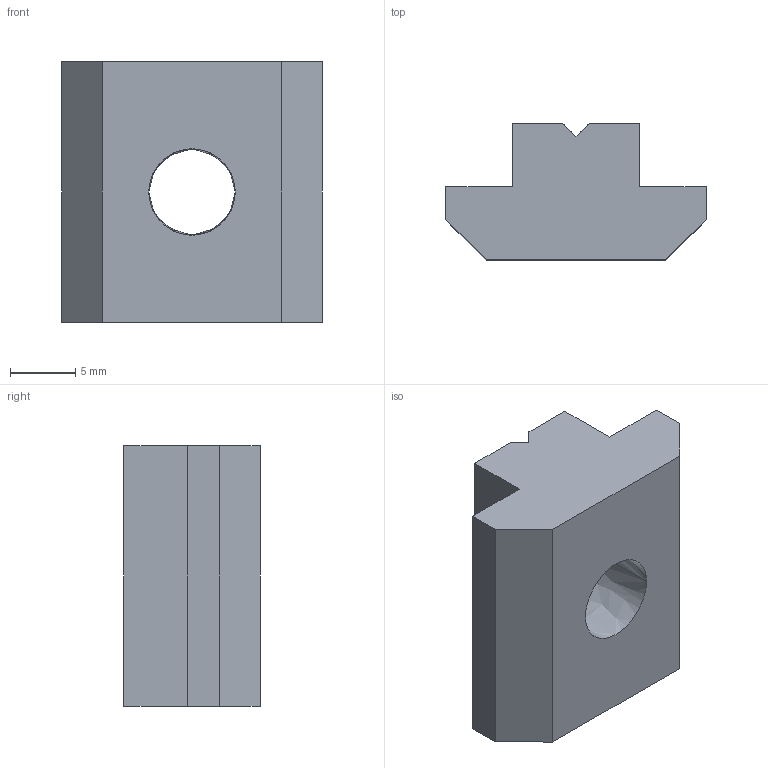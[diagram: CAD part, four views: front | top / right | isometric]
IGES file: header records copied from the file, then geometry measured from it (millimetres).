
Global section: file name: C:\Documents and Settings\Administrator\Desktop\Transfer Temp\tblock10mm.igs; native system: AutoDesk Inventor R2.0 ; preprocessor: AutoDesk Inventor Iges Exporter R2.0; author: No Author specified; organization: No Organization specified; date: 20011227.204524; units: millimetre
Bounding box: 20 x 10.46 x 20 mm (x, y, z)
Surface area: 1602.2 mm2 (no closed solid volume)
Topology: 0 solids, 0 shells, 19 faces, 108 edges, 108 vertices
Faces by surface type: bspline 19
